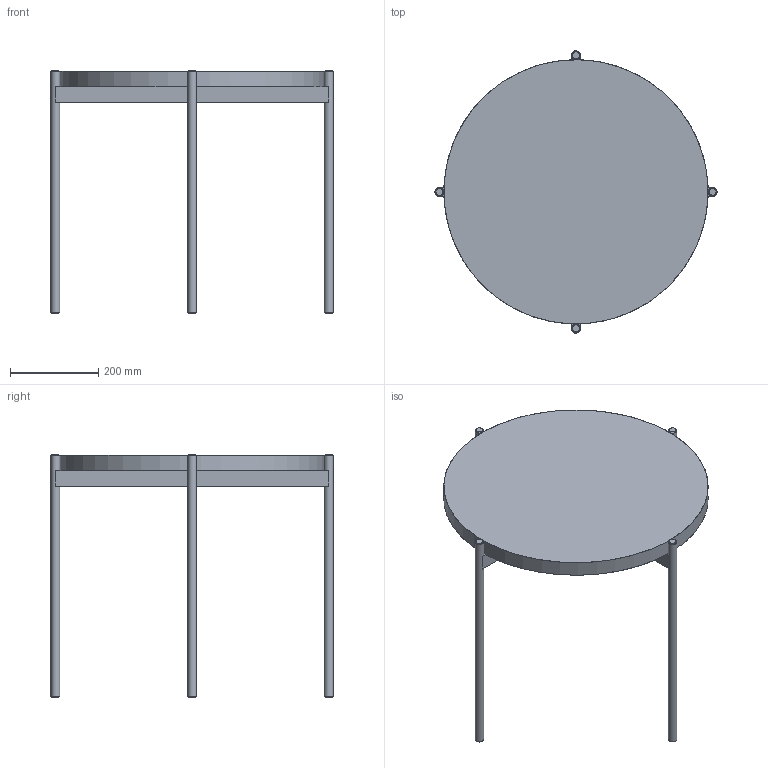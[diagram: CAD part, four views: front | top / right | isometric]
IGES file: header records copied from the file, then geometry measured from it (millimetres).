
Global section: file name: \\server2\Datos\PROYECTOS\2022\DOOS - Stand Feria H; native system: Rhinoceros ( Nov 10 2020 ); preprocessor: Trout Lake IGES 012 Nov 10 2020; date: 220818.060227; units: millimetre
Bounding box: 640 x 640 x 552 mm (x, y, z)
Surface area: 911634.4 mm2 (no closed solid volume)
Topology: 0 solids, 0 shells, 35 faces, 131 edges, 118 vertices
Faces by surface type: bspline 35
